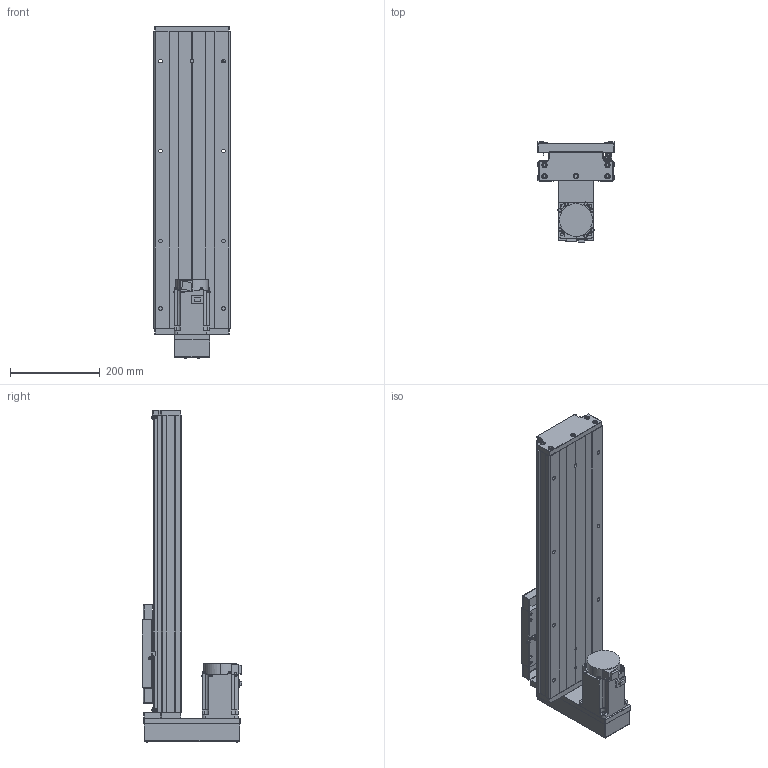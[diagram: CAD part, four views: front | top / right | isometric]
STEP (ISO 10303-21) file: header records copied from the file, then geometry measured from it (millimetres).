
FILE_DESCRIPTION (( 'STEP AP203' ), '1' );
FILE_NAME ('GTH17-400-BM-M75-C4.step', '2023-06-30T12:39:31', ( '微软用户' ), ( '微软中国' ), 'SwSTEP 2.0', 'SolidWorks 2020', '' );
FILE_SCHEMA (( 'CONFIG_CONTROL_DESIGN' ));
Length unit declared in the file: millimetre
Products named in the file (19): GTH17-004; GBT77-2000 M3×3; GTH17-015-2_CTHA86-015-2; GTH17-005; GBT 70.1-M6¡Á20_M6¡Á20; GTH17-033; GB1155-6X6; GTH17-031; GTH17-400-BM-M75-C4; CTHA60-017; GBT 70.2-M3¡Á5_M3¡Á6; EE_SX911P_R; す晦芛蹟隊 M3℅5; GTH17-001_400; CTHA60-016; HG-KN73J-S100; GTH17-002_GTH17-002; GBT 70.1-M3℅5; GBT 70.2-M4¡Á45_M4¡Á35
Assembly tree (58 placements, depth 2):
  GTH17-400-BM-M75-C4
    GTH17-001_400
    GTH17-002_GTH17-002
    GTH17-004
    GTH17-005
    GB1155-6X6  x2
    CTHA60-017  x3
    EE_SX911P_R  x3
    CTHA60-016  x2
    GBT 70.1-M3℅5  x6
    GBT77-2000 M3×3  x6
    GBT 70.1-M6¡Á20_M6¡Á20  x10
    GTH17-031
    GBT 70.2-M3¡Á5_M3¡Á6  x8
    す晦芛蹟隊 M3℅5  x6
    HG-KN73J-S100
    GBT 70.2-M4¡Á45_M4¡Á35  x4
    GTH17-015-2_CTHA86-015-2
    GTH17-033
Bounding box: 171 x 222.3 x 738.2 mm (x, y, z)
Volume: 6493233.6 mm3; surface area: 974215.4 mm2
Topology: 61 solids, 61 shells, 2429 faces, 5797 edges, 3587 vertices
Faces by surface type: plane 1306, cylinder 650, cone 297, torus 124, sphere 32, bspline 20
Entity records: 44122 total; most frequent: CARTESIAN_POINT 10266, DIRECTION 6361, ORIENTED_EDGE 6306, EDGE_CURVE 3153, AXIS2_PLACEMENT_3D 2160, VECTOR 2041, LINE 2041, VERTEX_POINT 1999
